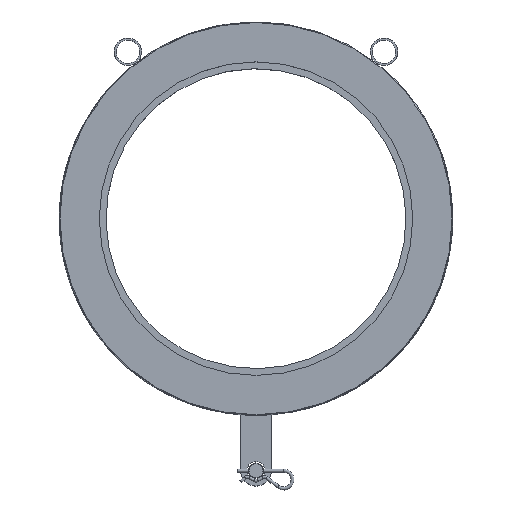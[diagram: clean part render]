
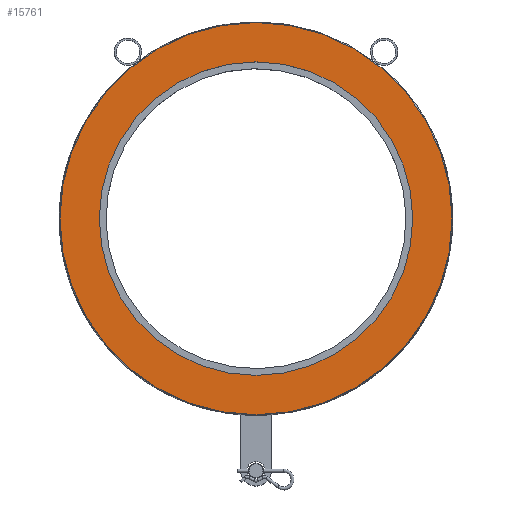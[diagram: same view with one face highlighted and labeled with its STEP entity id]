
A CAD part, top view. The second image highlights one B-rep face of the part: STEP entity #15761.
In plain terms, the highlighted planar face has unit normal (0, 0, 1).
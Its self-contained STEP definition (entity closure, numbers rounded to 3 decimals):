
#530=FACE_BOUND('',#3502,.T.);
#1710=PLANE('',#16605);
#2550=FACE_OUTER_BOUND('',#3501,.T.);
#3501=EDGE_LOOP('',(#14459));
#3502=EDGE_LOOP('',(#14460));
#6085=CIRCLE('',#16601,255.);
#6086=CIRCLE('',#16603,319.);
#7617=VERTEX_POINT('',#37474);
#7618=VERTEX_POINT('',#37478);
#9916=EDGE_CURVE('',#7617,#7617,#6085,.T.);
#9918=EDGE_CURVE('',#7618,#7618,#6086,.T.);
#14459=ORIENTED_EDGE('',*,*,#9918,.F.);
#14460=ORIENTED_EDGE('',*,*,#9916,.T.);
#15761=ADVANCED_FACE('',(#2550,#530),#1710,.T.);
#16601=AXIS2_PLACEMENT_3D('',#37475,#19271,#19272);
#16603=AXIS2_PLACEMENT_3D('',#37479,#19276,#19277);
#16605=AXIS2_PLACEMENT_3D('',#37482,#19281,#19282);
#19271=DIRECTION('center_axis',(0.,0.,
-1.));
#19272=DIRECTION('ref_axis',(-1.,0.,0.));
#19276=DIRECTION('center_axis',(0.,0.,
-1.));
#19277=DIRECTION('ref_axis',(-1.,0.,0.));
#19281=DIRECTION('center_axis',(0.,0.,
1.));
#19282=DIRECTION('ref_axis',(-1.,0.,0.));
#37474=CARTESIAN_POINT('',(255.,0.,140.));
#37475=CARTESIAN_POINT('Origin',(0.,0.,
140.));
#37478=CARTESIAN_POINT('',(319.,0.,140.));
#37479=CARTESIAN_POINT('Origin',(0.,0.,
140.));
#37482=CARTESIAN_POINT('Origin',(0.,0.,
140.));
